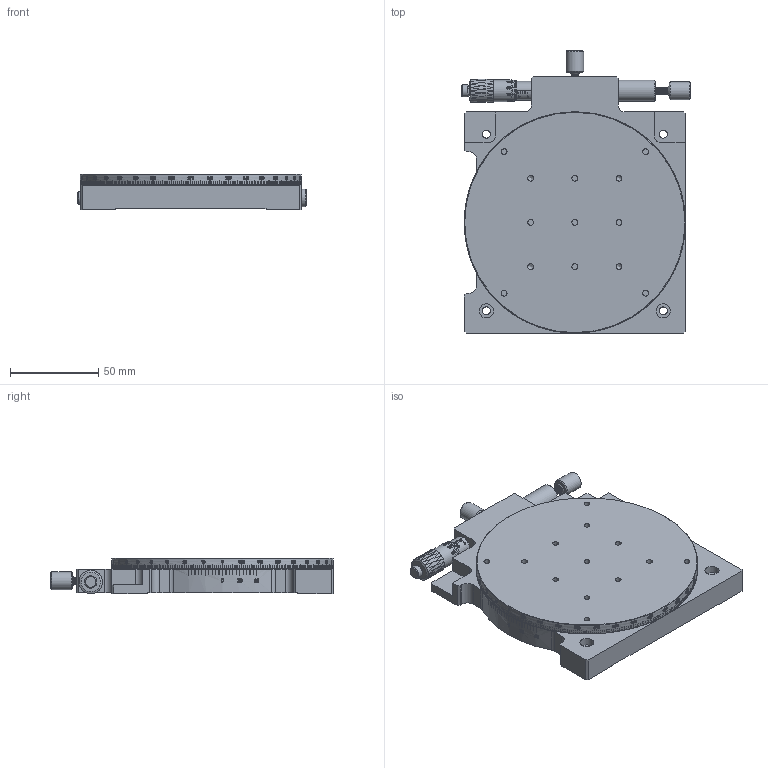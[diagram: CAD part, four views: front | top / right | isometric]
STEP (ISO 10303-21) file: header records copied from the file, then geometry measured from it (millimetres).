
FILE_DESCRIPTION (( 'STEP AP203' ), '1' );
FILE_NAME ('BPBR125.STEP', '2024-07-10T08:02:38', ( 'Windows User' ), ( 'P R C' ), 'SwSTEP 2.0', 'SolidWorks 2024', '' );
FILE_SCHEMA (( 'CONFIG_CONTROL_DESIGN' ));
Length unit declared in the file: millimetre
Products named in the file (1): BPBR125
Bounding box: 129.31 x 159.5 x 20 mm (x, y, z)
Volume: 268839.7 mm3; surface area: 109279.1 mm2
Topology: 12 solids, 12 shells, 1609 faces, 5149 edges, 3842 vertices
Faces by surface type: cylinder 880, bspline 401, plane 190, cone 136, sphere 1, torus 1
Full cylindrical faces by diameter (mm): 2.05 x5, 2.5 x4, 2.9 x5, 3.2 x3, 3.3 x19, 3.4 x2, 4 x1, 4.5 x4, 5 x3, 5.3 x1, 5.6 x5, 6 x4, 7 x1, 8 x2, 8.5 x1, 8.8 x1, 9.5 x4, 10 x2, 10.5 x1, 12 x1, 12.2 x1, 55 x12, 79.4 x1, 80 x3, 92 x2, 99.6 x1, 100 x1, 108 x2, 109 x1, 124.6 x1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
Entity records: 123200 total; most frequent: CARTESIAN_POINT 80587, ORIENTED_EDGE 9920, DIRECTION 7291, EDGE_CURVE 4960, VERTEX_POINT 3787, AXIS2_PLACEMENT_3D 2928, EDGE_LOOP 2073, CIRCLE 1736
